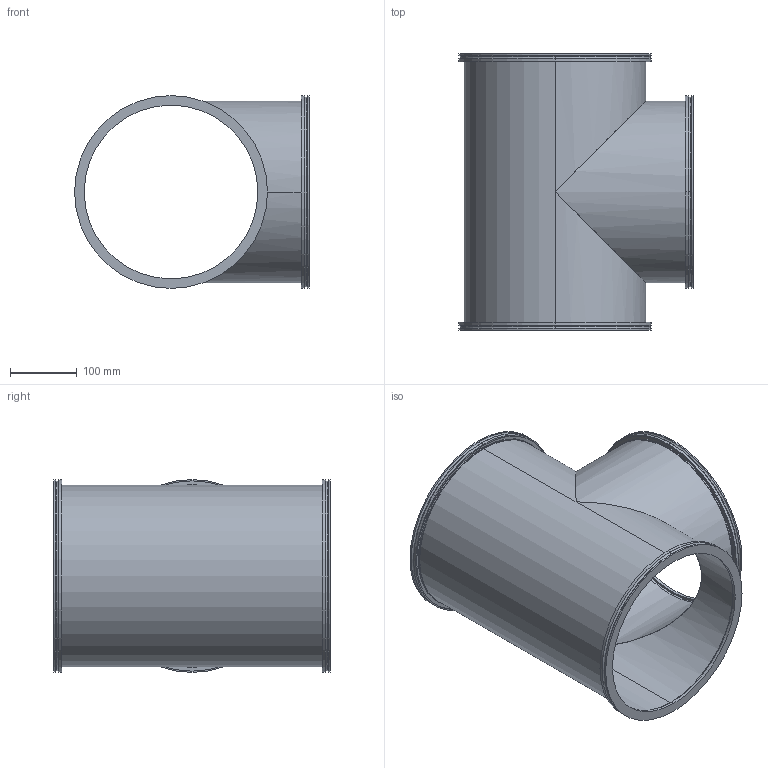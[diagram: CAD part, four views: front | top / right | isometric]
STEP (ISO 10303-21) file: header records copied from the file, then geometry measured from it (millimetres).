
FILE_DESCRIPTION (( 'STEP AP214' ), '1' );
FILE_NAME ('W4TS250.STEP', '2020-10-12T15:25:34', ( '' ), ( '' ), 'SwSTEP 2.0', 'SolidWorks 2020', '' );
FILE_SCHEMA (( 'AUTOMOTIVE_DESIGN' ));
Length unit declared in the file: millimetre
Products named in the file (1): W4TS250
Bounding box: 353 x 416 x 290 mm (x, y, z)
Volume: 1398401.8 mm3; surface area: 897234.9 mm2
Topology: 5 solids, 5 shells, 89 faces, 184 edges, 114 vertices
Faces by surface type: cylinder 52, plane 25, torus 12
Entity records: 2478 total; most frequent: DIRECTION 466, CARTESIAN_POINT 424, ORIENTED_EDGE 368, AXIS2_PLACEMENT_3D 204, EDGE_CURVE 184, CIRCLE 114, VERTEX_POINT 114, EDGE_LOOP 110
